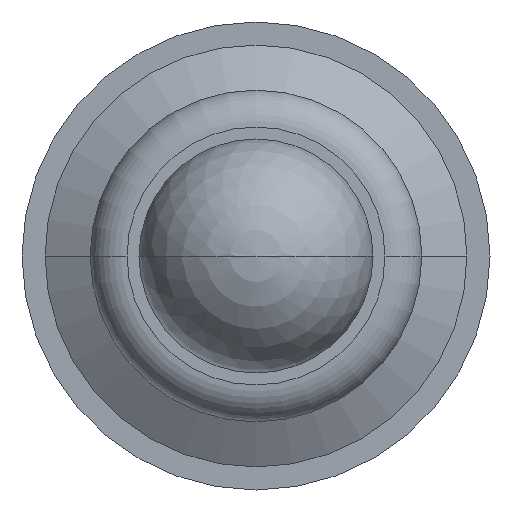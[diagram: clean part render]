
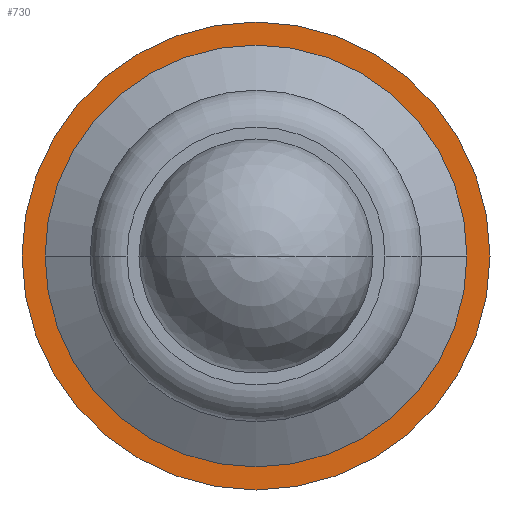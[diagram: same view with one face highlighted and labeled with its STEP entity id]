
A CAD part, left-side view. The second image highlights one B-rep face of the part: STEP entity #730.
In plain terms, the highlighted planar face has unit normal (-1, 0, 0).
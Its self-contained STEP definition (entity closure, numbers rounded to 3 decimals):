
#212=CARTESIAN_POINT('',(5.64,0.,0.));
#213=DIRECTION('',(-1.,0.,0.));
#214=DIRECTION('',(0.,-1.,0.));
#215=AXIS2_PLACEMENT_3D('',#212,#213,#214);
#220=CARTESIAN_POINT('',(5.64,0.,0.));
#221=DIRECTION('',(1.,0.,0.));
#222=DIRECTION('',(0.,-1.,0.));
#223=AXIS2_PLACEMENT_3D('',#220,#221,#222);
#228=CARTESIAN_POINT('',(5.64,0.,0.));
#229=DIRECTION('',(1.,0.,0.));
#230=DIRECTION('',(0.,-1.,0.));
#231=AXIS2_PLACEMENT_3D('',#228,#229,#230);
#243=CARTESIAN_POINT('',(5.64,0.,0.));
#244=DIRECTION('',(-1.,0.,0.));
#245=DIRECTION('',(0.,-1.,0.));
#246=AXIS2_PLACEMENT_3D('',#243,#244,#245);
#486=CARTESIAN_POINT('',(5.64,-1.145,0.));
#487=VERTEX_POINT('',#486);
#488=CARTESIAN_POINT('',(5.64,-1.27,0.));
#490=VERTEX_POINT('',#488);
#514=CARTESIAN_POINT('',(5.64,1.145,0.));
#515=VERTEX_POINT('',#514);
#516=CARTESIAN_POINT('',(5.64,1.27,0.));
#518=VERTEX_POINT('',#516);
#715=CARTESIAN_POINT('',(5.64,0.,0.));
#716=DIRECTION('',(1.,0.,0.));
#717=DIRECTION('',(0.,-1.,0.));
#718=AXIS2_PLACEMENT_3D('',#715,#716,#717);
#719=PLANE('',#718);
#721=ORIENTED_EDGE('',*,*,#720,.T.);
#723=ORIENTED_EDGE('',*,*,#722,.F.);
#724=EDGE_LOOP('',(#721,#723));
#725=FACE_OUTER_BOUND('',#724,.F.);
#726=ORIENTED_EDGE('',*,*,#697,.T.);
#727=ORIENTED_EDGE('',*,*,#708,.F.);
#728=EDGE_LOOP('',(#726,#727));
#729=FACE_BOUND('',#728,.F.);
#730=ADVANCED_FACE('',(#725,#729),#719,.F.);
#216=CIRCLE('',#215,1.145);
#224=CIRCLE('',#223,1.145);
#232=CIRCLE('',#231,1.27);
#247=CIRCLE('',#246,1.27);
#697=EDGE_CURVE('',#487,#515,#216,.T.);
#708=EDGE_CURVE('',#487,#515,#224,.T.);
#720=EDGE_CURVE('',#490,#518,#232,.T.);
#722=EDGE_CURVE('',#490,#518,#247,.T.);
